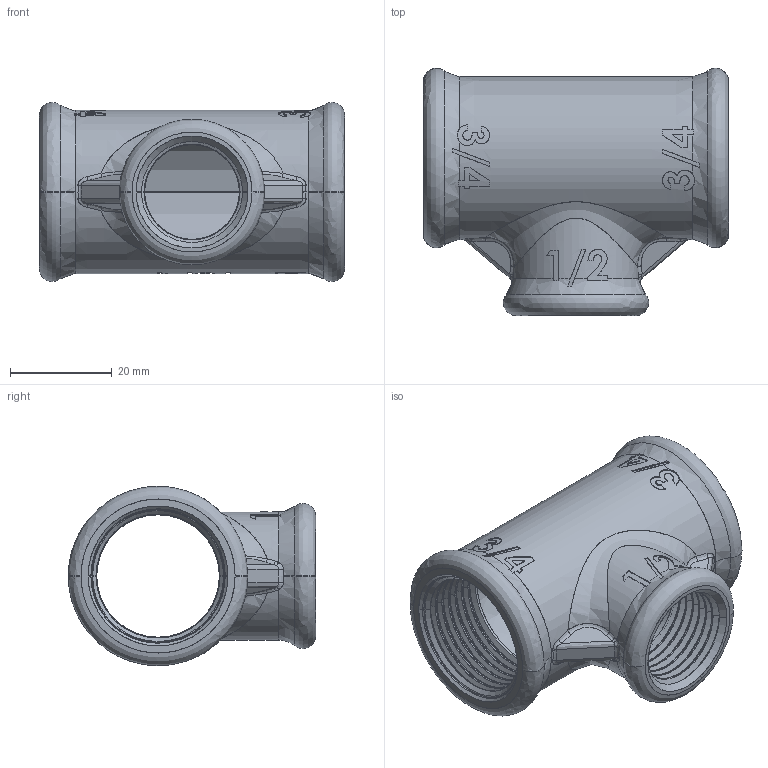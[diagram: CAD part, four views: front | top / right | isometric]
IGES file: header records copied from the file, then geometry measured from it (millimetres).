
Start section: SolidWorks IGES file using analytic representation for surfaces
Global section: file name: C:\Users\Joel Rosa\Desktop\Tubulação\12-45-XXX\12-45-029.IGS; native system: SolidWorks 2011; preprocessor: SolidWorks 2011; author: Joel Rosa; date: 121212.233129; units: millimetre
Bounding box: 60 x 48.65 x 35.3 mm (x, y, z)
Surface area: 15875.7 mm2 (no closed solid volume)
Topology: 0 solids, 0 shells, 481 faces, 4806 edges, 4806 vertices
Faces by surface type: bspline 347, revolution 134
